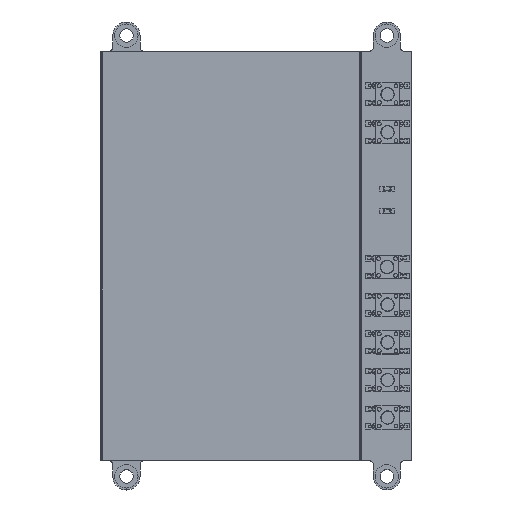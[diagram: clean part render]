
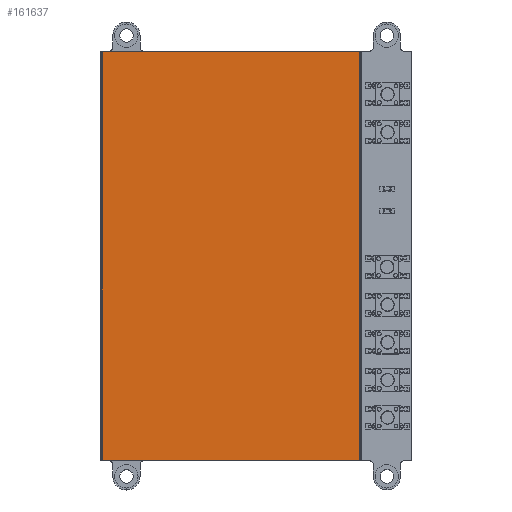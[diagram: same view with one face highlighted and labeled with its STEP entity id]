
A CAD part, top view. The second image highlights one B-rep face of the part: STEP entity #161637.
In plain terms, the highlighted planar face has unit normal (0, 0, 1).
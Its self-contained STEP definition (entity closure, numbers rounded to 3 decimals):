
#321 = CARTESIAN_POINT ( 'NONE',  ( -26.1, -49.824, 1.2 ) ) ;
#337 = PLANE ( 'NONE',  #147268 ) ;
#362 = DIRECTION ( 'NONE',  ( 0., 0., 1. ) ) ;
#364 = DIRECTION ( 'NONE',  ( 1., 0., 0. ) ) ;
#513 = LINE ( 'NONE', #59144, #523 ) ;
#523 = VECTOR ( 'NONE', #59152, 1000. ) ;
#12874 = EDGE_CURVE ( 'NONE', #174327, #175346, #103407, .T. ) ;
#12894 = EDGE_CURVE ( 'NONE', #175056, #175030, #103481, .T. ) ;
#12900 = EDGE_CURVE ( 'NONE', #175346, #175056, #103478, .T. ) ;
#59144 = CARTESIAN_POINT ( 'NONE',  ( -26.1, 16.386, 1.2 ) ) ;
#59152 = DIRECTION ( 'NONE',  ( 0., -1., 0. ) ) ;
#67487 = CARTESIAN_POINT ( 'NONE',  ( -26.1, -49.824, 1.2 ) ) ;
#67490 = DIRECTION ( 'NONE',  ( 1., 0., 0. ) ) ;
#67511 = CARTESIAN_POINT ( 'NONE',  ( -26.1, 16.386, 1.2 ) ) ;
#67512 = DIRECTION ( 'NONE',  ( -1., 0., 0. ) ) ;
#67521 = CARTESIAN_POINT ( 'NONE',  ( 79.04, 16.386, 1.2 ) ) ;
#67525 = DIRECTION ( 'NONE',  ( 0., 1., 0. ) ) ;
#103407 = LINE ( 'NONE', #67487, #103431 ) ;
#103431 = VECTOR ( 'NONE', #67490, 1000. ) ;
#103478 = LINE ( 'NONE', #67521, #103508 ) ;
#103481 = LINE ( 'NONE', #67511, #103483 ) ;
#103483 = VECTOR ( 'NONE', #67512, 1000. ) ;
#103508 = VECTOR ( 'NONE', #67525, 1000. ) ;
#104282 = EDGE_LOOP ( 'NONE', ( #106128, #106127, #106129, #106130 ) ) ;
#106127 = ORIENTED_EDGE ( 'NONE', *, *, #12874, .T. ) ;
#106128 = ORIENTED_EDGE ( 'NONE', *, *, #126297, .T. ) ;
#106129 = ORIENTED_EDGE ( 'NONE', *, *, #12900, .T. ) ;
#106130 = ORIENTED_EDGE ( 'NONE', *, *, #12894, .T. ) ;
#120233 = CARTESIAN_POINT ( 'NONE',  ( -26.1, -49.824, 1.2 ) ) ;
#120863 = CARTESIAN_POINT ( 'NONE',  ( -26.1, 16.386, 1.2 ) ) ;
#120883 = CARTESIAN_POINT ( 'NONE',  ( 79.04, 16.386, 1.2 ) ) ;
#126297 = EDGE_CURVE ( 'NONE', #175030, #174327, #513, .T. ) ;
#129010 = CARTESIAN_POINT ( 'NONE',  ( 79.04, -49.824, 1.2 ) ) ;
#147268 = AXIS2_PLACEMENT_3D ( 'NONE', #321, #362, #364 ) ;
#161637 = ADVANCED_FACE ( 'NONE', ( #164043 ), #337, .T. ) ;
#164043 = FACE_OUTER_BOUND ( 'NONE', #104282, .T. ) ;
#174327 = VERTEX_POINT ( 'NONE', #120233 ) ;
#175030 = VERTEX_POINT ( 'NONE', #120863 ) ;
#175056 = VERTEX_POINT ( 'NONE', #120883 ) ;
#175346 = VERTEX_POINT ( 'NONE', #129010 ) ;
